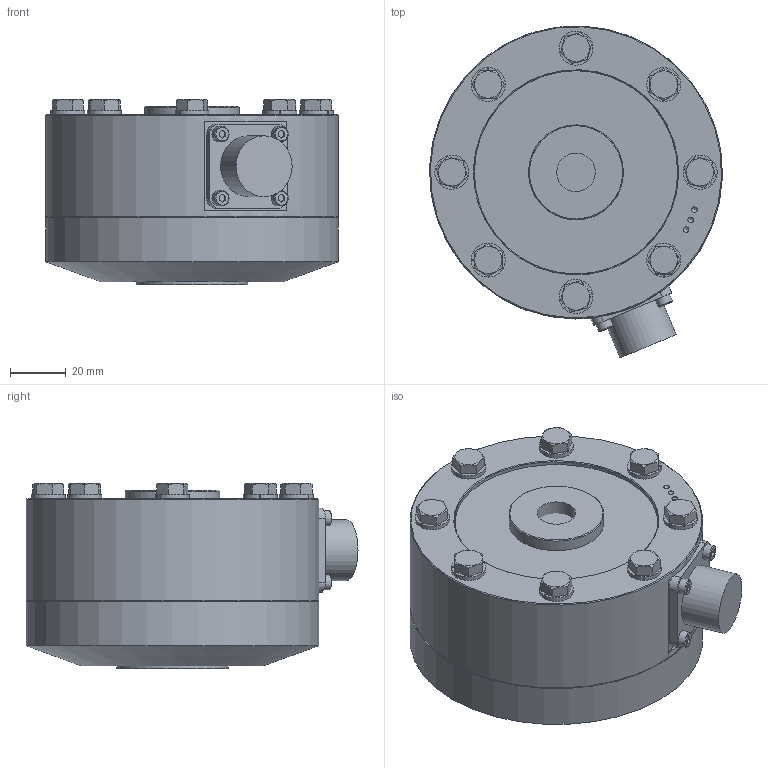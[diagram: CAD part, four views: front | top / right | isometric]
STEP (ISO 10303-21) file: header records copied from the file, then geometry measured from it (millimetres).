
FILE_DESCRIPTION(/* description */ ('Unknown'),/* implementation_level */ '2;1');
FILE_NAME(/* name */ 'C3XK-K500 to T002 SPEC',/* time_stamp */ '2021-05-11T15:15:10+09:00',/* author */ ('Unknown'),/* organization */ ('Unknown'),/* preprocessor_version */ 'ST-DEVELOPER v16.7',/* originating_system */ 'DEX',/* authorisation */ $);
FILE_SCHEMA (('AUTOMOTIVE_DESIGN {1 0 10303 214 3 1 1}'));
Length unit declared in the file: millimetre
Products named in the file (1): C3XK-K500 to T002 SPEC
Bounding box: 105 x 119.03 x 66.5 mm (x, y, z)
Volume: 499989.8 mm3; surface area: 53620.4 mm2
Topology: 1 solids, 1 shells, 236 faces, 608 edges, 390 vertices
Faces by surface type: plane 152, cylinder 54, cone 22, torus 8
Full cylindrical faces by diameter (mm): 2 x3, 5.5 x4, 6 x8, 6.6 x8, 13.835 x4, 21.8 x1, 34 x1, 40 x1, 72.9 x1, 73 x1, 105 x2
Entity records: 8278 total; most frequent: CARTESIAN_POINT 1338, DIRECTION 1056, ORIENTED_EDGE 1010, EDGE_CURVE 505, AXIS2_PLACEMENT_3D 378, VERTEX_POINT 356, FACE_BOUND 337, EDGE_LOOP 332
